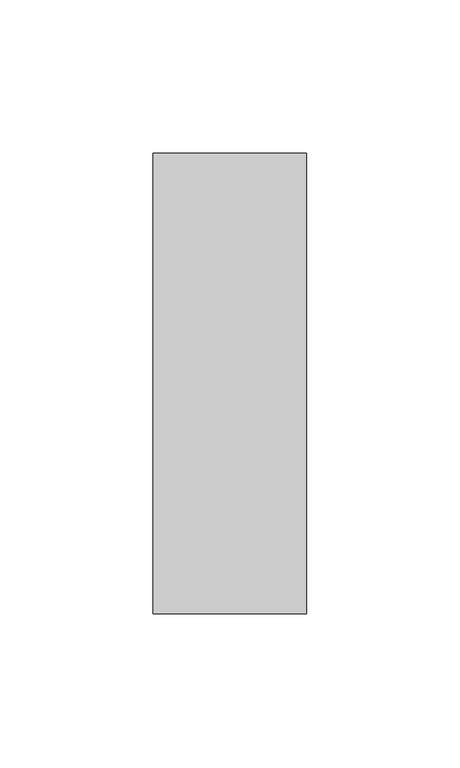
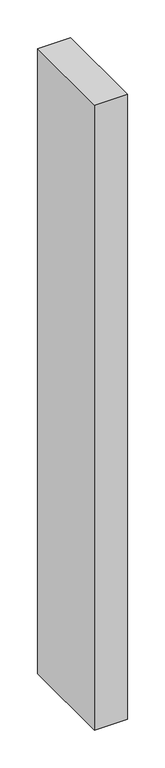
"""IFC4 building model written with IfcOpenShell, lengths in millimetres: member geometry, Прямоугольный импост : 50 x 150 мм."""

from ifc_helpers import new_model, si_unit, frame, origin, place, context, project, spatial, polyline, outline, extrude, source, transform, mapped, element, save


def member_996264d9(model_context):
    return source(origin(), model_context, "Body", "SweptSolid", [
        extrude(outline(polyline([(25.0, 75.0), (25.0, -75.0), (-25.0, -75.0), (-25.0, 75.0), (25.0, 75.0)])), frame((0.0, 0.0, -1006.7681633), z_axis=(0.0, 0.0, 1.0), x_axis=(1.0, 0.0, 0.0)), (0.0, 0.0, 1.0), 1006.7681633),
    ])


if __name__ == "__main__":
    model = new_model("IFC4")
    model_context = context("Model", 3, world=origin())
    ifc_project = project(units=[si_unit("LENGTHUNIT", "METRE", prefix="MILLI")], contexts=[model_context])
    site = spatial("IfcSite", under=ifc_project)
    building = spatial("IfcBuilding", under=site)
    placement = place(None, origin())
    member_shape = member_996264d9(model_context)
    element("IfcMember", 1, ObjectType="Прямоугольный импост : 50 x 150 мм", at=placement, inside=building, context=model_context, shape_type="MappedRepresentation", body=[
        mapped(member_shape, transform((0.0, 0.0, 0.0), x_axis=(1.0, 0.0, 0.0), y_axis=(0.0, 1.0, 0.0), z_axis=(0.0, 0.0, 1.0))),
    ])
    save(model, "model.ifc")
